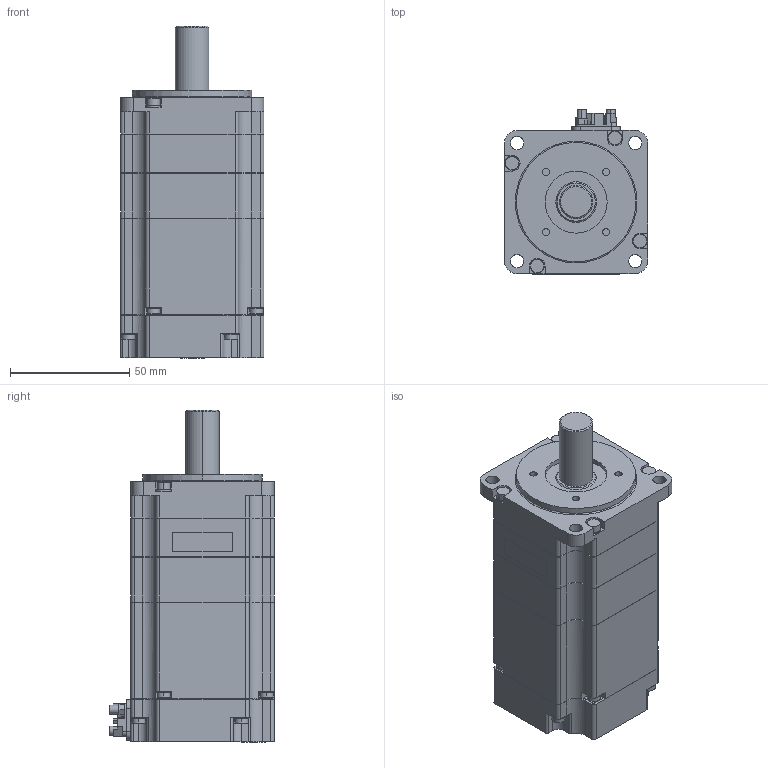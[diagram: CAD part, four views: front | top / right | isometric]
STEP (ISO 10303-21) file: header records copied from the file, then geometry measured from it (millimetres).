
FILE_DESCRIPTION (( 'STEP AP214' ), '1' );
FILE_NAME ('sgmxj_02aua2ca_.STEP', '2021-07-13T00:16:16', ( '' ), ( '' ), 'SwSTEP 2.0', 'SolidWorks 2016', '' );
FILE_SCHEMA (( 'AUTOMOTIVE_DESIGN' ));
Length unit declared in the file: millimetre
Products named in the file (1): sgmxj_02aua2ca_
Bounding box: 60.1 x 68.8 x 139.1 mm (x, y, z)
Volume: 356212.4 mm3; surface area: 37781.8 mm2
Topology: 1 solids, 1 shells, 519 faces, 1374 edges, 912 vertices
Faces by surface type: plane 296, cylinder 217, cone 4, torus 2
Entity records: 21927 total; most frequent: DIRECTION 2870, CARTESIAN_POINT 2806, ORIENTED_EDGE 2748, EDGE_CURVE 1374, AXIS2_PLACEMENT_3D 976, LINE 918, VECTOR 918, VERTEX_POINT 912
